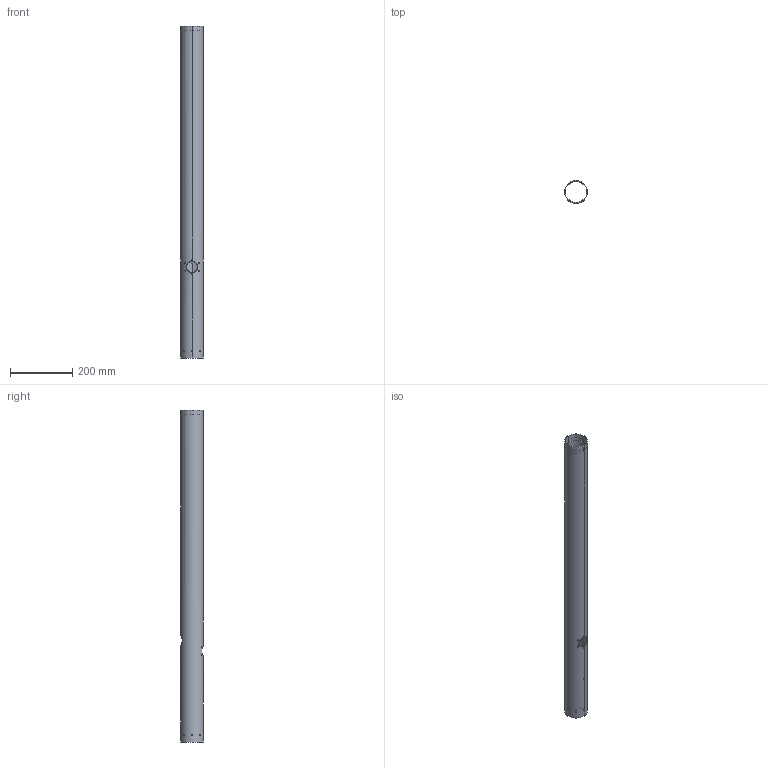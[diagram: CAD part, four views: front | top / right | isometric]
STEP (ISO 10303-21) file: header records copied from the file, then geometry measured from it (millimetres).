
FILE_DESCRIPTION(/* description */ ('(C) Elphel, Inc. 2013. Licensed under CERN OHL v.1.1 or later, see http://ohwr.org/cernohl'),/* implementation_level */ '2;1');
FILE_NAME(/* name */ '0353-10-231C.stp',/* time_stamp */ '2013-04-03T22:21:18-06:00',/* author */ (''),/* organization */ ('Elphel, Inc'),/* preprocessor_version */ 'ST-DEVELOPER v14',/* originating_system */ 'VariCAD 2013-1.03; kernel version (20121105)',/* authorisation */ '');
FILE_SCHEMA (('CONFIG_CONTROL_DESIGN'));
Length unit declared in the file: millimetre
Products named in the file (2): 0353-10-231C; 0353-10-231
Assembly tree (1 placements, depth 2):
  0353-10-231C
    0353-10-231
Bounding box: 73.03 x 73.03 x 1067 mm (x, y, z)
Volume: 490381.6 mm3; surface area: 472866.5 mm2
Topology: 1 solids, 1 shells, 107 faces, 330 edges, 212 vertices
Faces by surface type: cylinder 78, cone 24, plane 5
Entity records: 4976 total; most frequent: CARTESIAN_POINT 2013, ORIENTED_EDGE 660, DIRECTION 524, EDGE_CURVE 330, VERTEX_POINT 212, AXIS2_PLACEMENT_3D 203, EDGE_LOOP 140, B_SPLINE_CURVE_WITH_KNOTS 120
